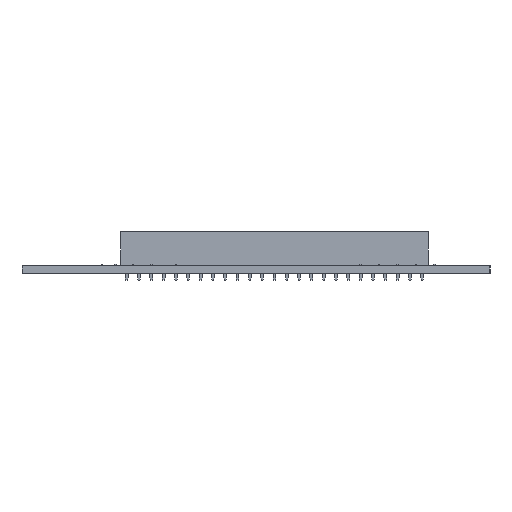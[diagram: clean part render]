
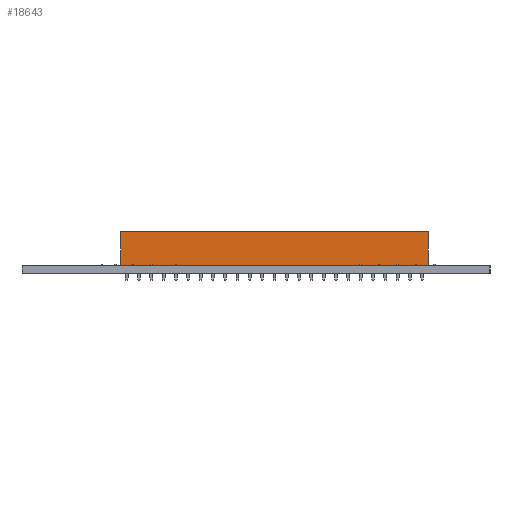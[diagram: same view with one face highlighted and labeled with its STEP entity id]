
A CAD part, left-side view. The second image highlights one B-rep face of the part: STEP entity #18643.
In plain terms, the highlighted planar face has unit normal (-1, 0, 0).
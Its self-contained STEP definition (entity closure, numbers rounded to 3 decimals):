
#2037 = PLANE('',#2038);
#2038 = AXIS2_PLACEMENT_3D('',#2039,#2040,#2041);
#2039 = CARTESIAN_POINT('',(-3.81,-62.23,0.));
#2040 = DIRECTION('',(0.,1.,0.));
#2041 = DIRECTION('',(1.,0.,0.));
#2065 = PLANE('',#2066);
#2066 = AXIS2_PLACEMENT_3D('',#2067,#2068,#2069);
#2067 = CARTESIAN_POINT('',(1.27,-62.23,7.));
#2068 = DIRECTION('',(-0.,0.,-1.));
#2069 = DIRECTION('',(0.,-1.,-0.));
#2093 = PLANE('',#2094);
#2094 = AXIS2_PLACEMENT_3D('',#2095,#2096,#2097);
#2095 = CARTESIAN_POINT('',(1.27,1.27,0.));
#2096 = DIRECTION('',(0.,-1.,0.));
#2097 = DIRECTION('',(-1.,0.,0.));
#2135 = VERTEX_POINT('',#2136);
#2136 = CARTESIAN_POINT('',(-3.81,-62.23,0.));
#2152 = PLANE('',#2153);
#2153 = AXIS2_PLACEMENT_3D('',#2154,#2155,#2156);
#2154 = CARTESIAN_POINT('',(1.27,-62.23,0.));
#2155 = DIRECTION('',(-0.,0.,-1.));
#2156 = DIRECTION('',(0.,-1.,-0.));
#2164 = EDGE_CURVE('',#2135,#2165,#2167,.T.);
#2165 = VERTEX_POINT('',#2166);
#2166 = CARTESIAN_POINT('',(-3.81,-62.23,7.));
#2167 = SURFACE_CURVE('',#2168,(#2172,#2179),.PCURVE_S1.);
#2168 = LINE('',#2169,#2170);
#2169 = CARTESIAN_POINT('',(-3.81,-62.23,0.));
#2170 = VECTOR('',#2171,1.);
#2171 = DIRECTION('',(0.,0.,1.));
#2172 = PCURVE('',#2037,#2173);
#2173 = DEFINITIONAL_REPRESENTATION('',(#2174),#2178);
#2174 = LINE('',#2175,#2176);
#2175 = CARTESIAN_POINT('',(0.,0.));
#2176 = VECTOR('',#2177,1.);
#2177 = DIRECTION('',(0.,-1.));
#2178 = ( GEOMETRIC_REPRESENTATION_CONTEXT(2) 
PARAMETRIC_REPRESENTATION_CONTEXT() REPRESENTATION_CONTEXT('2D SPACE',''
  ) );
#2179 = PCURVE('',#2180,#2185);
#2180 = PLANE('',#2181);
#2181 = AXIS2_PLACEMENT_3D('',#2182,#2183,#2184);
#2182 = CARTESIAN_POINT('',(-3.81,1.27,0.));
#2183 = DIRECTION('',(1.,0.,0.));
#2184 = DIRECTION('',(0.,-1.,0.));
#2185 = DEFINITIONAL_REPRESENTATION('',(#2186),#2190);
#2186 = LINE('',#2187,#2188);
#2187 = CARTESIAN_POINT('',(63.5,0.));
#2188 = VECTOR('',#2189,1.);
#2189 = DIRECTION('',(0.,-1.));
#2190 = ( GEOMETRIC_REPRESENTATION_CONTEXT(2) 
PARAMETRIC_REPRESENTATION_CONTEXT() REPRESENTATION_CONTEXT('2D SPACE',''
  ) );
#2347 = VERTEX_POINT('',#2348);
#2348 = CARTESIAN_POINT('',(-3.81,1.27,7.));
#2369 = EDGE_CURVE('',#2370,#2347,#2372,.T.);
#2370 = VERTEX_POINT('',#2371);
#2371 = CARTESIAN_POINT('',(-3.81,1.27,0.));
#2372 = SURFACE_CURVE('',#2373,(#2377,#2384),.PCURVE_S1.);
#2373 = LINE('',#2374,#2375);
#2374 = CARTESIAN_POINT('',(-3.81,1.27,0.));
#2375 = VECTOR('',#2376,1.);
#2376 = DIRECTION('',(0.,0.,1.));
#2377 = PCURVE('',#2093,#2378);
#2378 = DEFINITIONAL_REPRESENTATION('',(#2379),#2383);
#2379 = LINE('',#2380,#2381);
#2380 = CARTESIAN_POINT('',(5.08,0.));
#2381 = VECTOR('',#2382,1.);
#2382 = DIRECTION('',(0.,-1.));
#2383 = ( GEOMETRIC_REPRESENTATION_CONTEXT(2) 
PARAMETRIC_REPRESENTATION_CONTEXT() REPRESENTATION_CONTEXT('2D SPACE',''
  ) );
#2384 = PCURVE('',#2180,#2385);
#2385 = DEFINITIONAL_REPRESENTATION('',(#2386),#2390);
#2386 = LINE('',#2387,#2388);
#2387 = CARTESIAN_POINT('',(0.,0.));
#2388 = VECTOR('',#2389,1.);
#2389 = DIRECTION('',(0.,-1.));
#2390 = ( GEOMETRIC_REPRESENTATION_CONTEXT(2) 
PARAMETRIC_REPRESENTATION_CONTEXT() REPRESENTATION_CONTEXT('2D SPACE',''
  ) );
#2514 = EDGE_CURVE('',#2347,#2165,#2515,.T.);
#2515 = SURFACE_CURVE('',#2516,(#2520,#2527),.PCURVE_S1.);
#2516 = LINE('',#2517,#2518);
#2517 = CARTESIAN_POINT('',(-3.81,1.27,7.));
#2518 = VECTOR('',#2519,1.);
#2519 = DIRECTION('',(0.,-1.,0.));
#2520 = PCURVE('',#2065,#2521);
#2521 = DEFINITIONAL_REPRESENTATION('',(#2522),#2526);
#2522 = LINE('',#2523,#2524);
#2523 = CARTESIAN_POINT('',(-63.5,5.08));
#2524 = VECTOR('',#2525,1.);
#2525 = DIRECTION('',(1.,0.));
#2526 = ( GEOMETRIC_REPRESENTATION_CONTEXT(2) 
PARAMETRIC_REPRESENTATION_CONTEXT() REPRESENTATION_CONTEXT('2D SPACE',''
  ) );
#2527 = PCURVE('',#2180,#2528);
#2528 = DEFINITIONAL_REPRESENTATION('',(#2529),#2533);
#2529 = LINE('',#2530,#2531);
#2530 = CARTESIAN_POINT('',(0.,-7.));
#2531 = VECTOR('',#2532,1.);
#2532 = DIRECTION('',(1.,0.));
#2533 = ( GEOMETRIC_REPRESENTATION_CONTEXT(2) 
PARAMETRIC_REPRESENTATION_CONTEXT() REPRESENTATION_CONTEXT('2D SPACE',''
  ) );
#8261 = EDGE_CURVE('',#2370,#2135,#8262,.T.);
#8262 = SURFACE_CURVE('',#8263,(#8267,#8274),.PCURVE_S1.);
#8263 = LINE('',#8264,#8265);
#8264 = CARTESIAN_POINT('',(-3.81,1.27,0.));
#8265 = VECTOR('',#8266,1.);
#8266 = DIRECTION('',(0.,-1.,0.));
#8267 = PCURVE('',#2152,#8268);
#8268 = DEFINITIONAL_REPRESENTATION('',(#8269),#8273);
#8269 = LINE('',#8270,#8271);
#8270 = CARTESIAN_POINT('',(-63.5,5.08));
#8271 = VECTOR('',#8272,1.);
#8272 = DIRECTION('',(1.,0.));
#8273 = ( GEOMETRIC_REPRESENTATION_CONTEXT(2) 
PARAMETRIC_REPRESENTATION_CONTEXT() REPRESENTATION_CONTEXT('2D SPACE',''
  ) );
#8274 = PCURVE('',#2180,#8275);
#8275 = DEFINITIONAL_REPRESENTATION('',(#8276),#8280);
#8276 = LINE('',#8277,#8278);
#8277 = CARTESIAN_POINT('',(0.,0.));
#8278 = VECTOR('',#8279,1.);
#8279 = DIRECTION('',(1.,0.));
#8280 = ( GEOMETRIC_REPRESENTATION_CONTEXT(2) 
PARAMETRIC_REPRESENTATION_CONTEXT() REPRESENTATION_CONTEXT('2D SPACE',''
  ) );
#18643 = ADVANCED_FACE('',(#18644),#2180,.F.);
#18644 = FACE_BOUND('',#18645,.F.);
#18645 = EDGE_LOOP('',(#18646,#18647,#18648,#18649));
#18646 = ORIENTED_EDGE('',*,*,#2369,.T.);
#18647 = ORIENTED_EDGE('',*,*,#2514,.T.);
#18648 = ORIENTED_EDGE('',*,*,#2164,.F.);
#18649 = ORIENTED_EDGE('',*,*,#8261,.F.);
